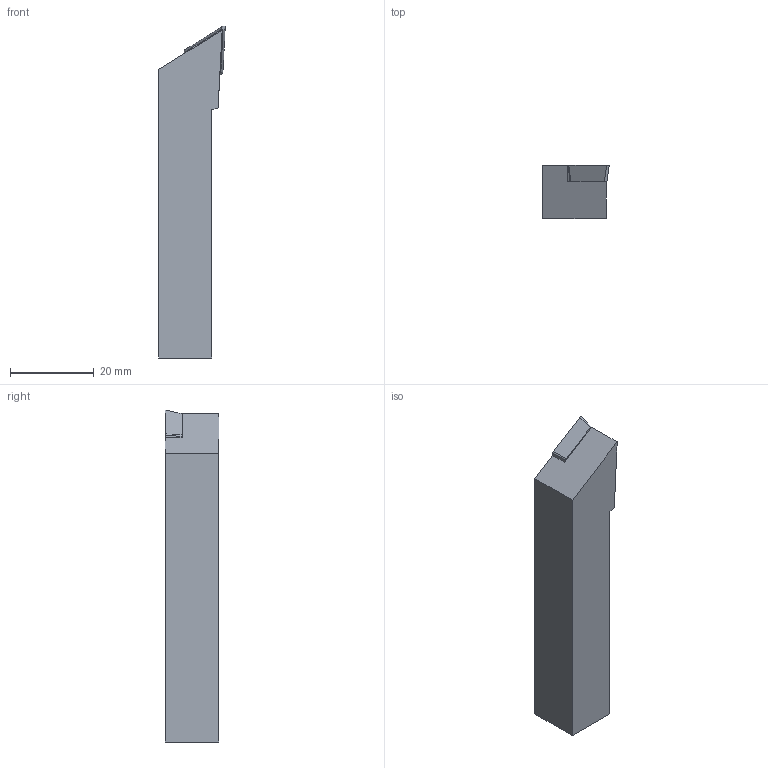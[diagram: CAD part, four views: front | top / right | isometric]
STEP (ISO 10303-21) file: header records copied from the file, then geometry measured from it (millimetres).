
FILE_DESCRIPTION (( 'STEP AP203' ), '1' );
FILE_NAME ('SDJCR08-3K-HAAS.STEP', '2020-11-06T06:52:14', ( '' ), ( '' ), 'SwSTEP 2.0', 'SolidWorks 2015', '' );
FILE_SCHEMA (( 'CONFIG_CONTROL_DESIGN' ));
Length unit declared in the file: millimetre
Products named in the file (4): SDJCR08-3K-HAAS_ル遽; SDJCR08-3K-HAAS; DCMT11T304_ル遽
Assembly tree (3 placements, depth 3):
  SDJCR08-3K-HAAS
    SDJCR08-3K-HAAS
      SDJCR08-3K-HAAS_ル遽
      DCMT11T304_ル遽
Bounding box: 15.87 x 12.7 x 79.37 mm (x, y, z)
Volume: 12158.2 mm3; surface area: 4587.6 mm2
Topology: 2 solids, 2 shells, 23 faces, 56 edges, 37 vertices
Faces by surface type: plane 17, cylinder 5, cone 1
Full cylindrical faces by diameter (mm): 4.5 x1
Entity records: 1077 total; most frequent: CARTESIAN_POINT 145, DIRECTION 109, ORIENTED_EDGE 108, EDGE_CURVE 54, LINE 43, VECTOR 43, VERTEX_POINT 37, PERSON_AND_ORGANIZATION 35
